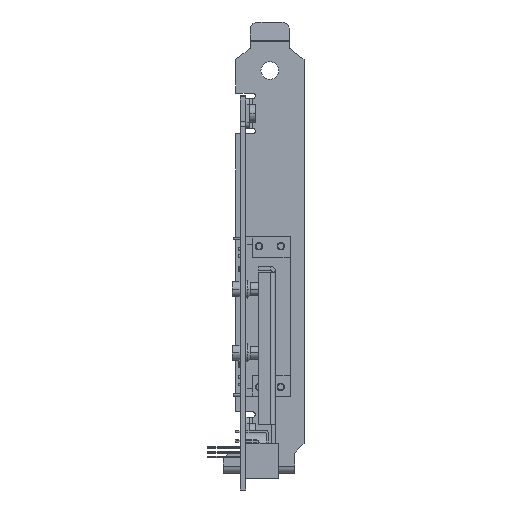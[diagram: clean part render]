
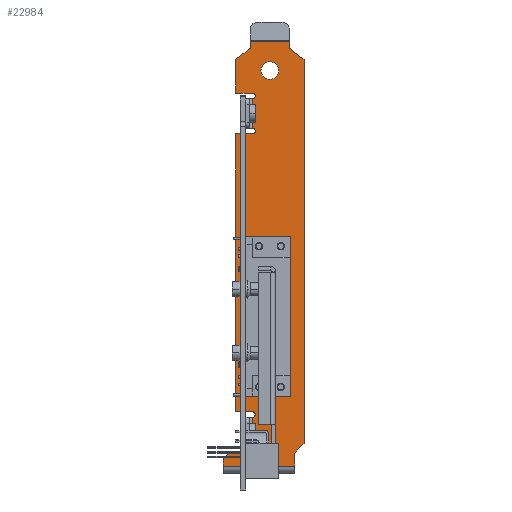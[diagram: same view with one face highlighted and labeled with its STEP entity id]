
A CAD part, front view. The second image highlights one B-rep face of the part: STEP entity #22984.
In plain terms, the highlighted planar face has unit normal (0, -1, 0).
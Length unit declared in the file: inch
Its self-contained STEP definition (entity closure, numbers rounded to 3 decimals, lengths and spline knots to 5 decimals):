
#3336=DIRECTION('',(1.,0.,0.));
#3337=VECTOR('',#3336,0.412);
#3338=CARTESIAN_POINT('',(0.108,0.33,0.764));
#3339=LINE('',#3338,#3337);
#3340=DIRECTION('',(0.,0.,-1.));
#3341=VECTOR('',#3340,0.074);
#3342=CARTESIAN_POINT('',(0.52,0.33,0.764));
#3343=LINE('',#3342,#3341);
#3344=DIRECTION('',(-0.788,0.,0.616));
#3345=VECTOR('',#3344,0.1967);
#3346=CARTESIAN_POINT('',(0.675,0.33,0.5689));
#3347=LINE('',#3346,#3345);
#3348=DIRECTION('',(0.707,0.,0.707));
#3349=VECTOR('',#3348,0.14142);
#3350=CARTESIAN_POINT('',(0.575,0.33,-3.583));
#3351=LINE('',#3350,#3349);
#3352=DIRECTION('',(0.,0.,1.));
#3353=VECTOR('',#3352,0.137);
#3354=CARTESIAN_POINT('',(0.575,0.33,-3.72));
#3355=LINE('',#3354,#3353);
#3356=DIRECTION('',(-1.,0.,0.));
#3357=VECTOR('',#3356,0.75);
#3358=CARTESIAN_POINT('',(0.575,0.33,-3.72));
#3359=LINE('',#3358,#3357);
#3360=DIRECTION('',(-0.707,0.,-0.707));
#3361=VECTOR('',#3360,0.09192);
#3362=CARTESIAN_POINT('',(-0.11,0.33,-3.577));
#3363=LINE('',#3362,#3361);
#3364=DIRECTION('',(1.,0.,0.));
#3365=VECTOR('',#3364,0.242);
#3366=CARTESIAN_POINT('',(-0.11,0.33,-3.577));
#3367=LINE('',#3366,#3365);
#3368=CARTESIAN_POINT('',(0.132,0.33,-3.5475));
#3369=DIRECTION('',(0.,1.,0.));
#3370=DIRECTION('',(0.,0.,1.));
#3371=AXIS2_PLACEMENT_3D('',#3368,#3369,#3370);
#3373=CARTESIAN_POINT('',(0.132,0.33,-3.1765));
#3374=DIRECTION('',(0.,1.,0.));
#3375=DIRECTION('',(0.,0.,1.));
#3376=AXIS2_PLACEMENT_3D('',#3373,#3374,#3375);
#3378=DIRECTION('',(-1.,0.,0.));
#3379=VECTOR('',#3378,0.179);
#3380=CARTESIAN_POINT('',(0.132,0.33,-3.147));
#3381=LINE('',#3380,#3379);
#3382=DIRECTION('',(0.,0.,-1.));
#3383=VECTOR('',#3382,2.932);
#3384=CARTESIAN_POINT('',(-0.047,0.33,-0.215));
#3385=LINE('',#3384,#3383);
#3386=DIRECTION('',(1.,0.,0.));
#3387=VECTOR('',#3386,0.179);
#3388=CARTESIAN_POINT('',(-0.047,0.33,-0.215));
#3389=LINE('',#3388,#3387);
#3390=CARTESIAN_POINT('',(0.132,0.33,-0.1855));
#3391=DIRECTION('',(0.,1.,0.));
#3392=DIRECTION('',(0.,0.,1.));
#3393=AXIS2_PLACEMENT_3D('',#3390,#3391,#3392);
#3395=CARTESIAN_POINT('',(0.132,0.33,0.1855));
#3396=DIRECTION('',(0.,1.,0.));
#3397=DIRECTION('',(0.,0.,1.));
#3398=AXIS2_PLACEMENT_3D('',#3395,#3396,#3397);
#3400=DIRECTION('',(-1.,0.,0.));
#3401=VECTOR('',#3400,0.179);
#3402=CARTESIAN_POINT('',(0.132,0.33,0.215));
#3403=LINE('',#3402,#3401);
#3404=DIRECTION('',(0.,0.,-1.));
#3405=VECTOR('',#3404,0.3539);
#3406=CARTESIAN_POINT('',(-0.047,0.33,0.5689));
#3407=LINE('',#3406,#3405);
#3408=DIRECTION('',(-0.788,0.,-0.616));
#3409=VECTOR('',#3408,0.1967);
#3410=CARTESIAN_POINT('',(0.108,0.33,0.69));
#3411=LINE('',#3410,#3409);
#3412=DIRECTION('',(0.,0.,-1.));
#3413=VECTOR('',#3412,0.074);
#3414=CARTESIAN_POINT('',(0.108,0.33,0.764));
#3415=LINE('',#3414,#3413);
#3416=CARTESIAN_POINT('',(0.314,0.33,0.453));
#3417=DIRECTION('',(0.,1.,0.));
#3418=DIRECTION('',(0.,0.,1.));
#3419=AXIS2_PLACEMENT_3D('',#3416,#3417,#3418);
#3421=CARTESIAN_POINT('',(0.314,0.33,0.453));
#3422=DIRECTION('',(0.,1.,0.));
#3423=DIRECTION('',(0.,0.,-1.));
#3424=AXIS2_PLACEMENT_3D('',#3421,#3422,#3423);
#3426=DIRECTION('',(-1.,0.,0.));
#3427=VECTOR('',#3426,0.46614);
#3428=CARTESIAN_POINT('',(0.52814,0.33,-1.302));
#3429=LINE('',#3428,#3427);
#3430=DIRECTION('',(0.,0.,-1.));
#3431=VECTOR('',#3430,1.6811);
#3432=CARTESIAN_POINT('',(0.062,0.33,-1.302));
#3433=LINE('',#3432,#3431);
#3434=DIRECTION('',(1.,0.,0.));
#3435=VECTOR('',#3434,0.46614);
#3436=CARTESIAN_POINT('',(0.062,0.33,-2.9831));
#3437=LINE('',#3436,#3435);
#3438=DIRECTION('',(0.,0.,1.));
#3439=VECTOR('',#3438,1.6811);
#3440=CARTESIAN_POINT('',(0.52814,0.33,-2.9831));
#3441=LINE('',#3440,#3439);
#3720=DIRECTION('',(0.,0.,1.));
#3721=VECTOR('',#3720,4.0519);
#3722=CARTESIAN_POINT('',(0.675,0.33,-3.483));
#3723=LINE('',#3722,#3721);
#3984=DIRECTION('',(0.,0.,1.));
#3985=VECTOR('',#3984,0.078);
#3986=CARTESIAN_POINT('',(-0.175,0.33,-3.72));
#3987=LINE('',#3986,#3985);
#4108=DIRECTION('',(0.,0.,1.));
#4109=VECTOR('',#4108,0.312);
#4110=CARTESIAN_POINT('',(0.132,0.33,-0.156));
#4111=LINE('',#4110,#4109);
#4288=DIRECTION('',(0.,0.,1.));
#4289=VECTOR('',#4288,0.312);
#4290=CARTESIAN_POINT('',(0.132,0.33,-3.518));
#4291=LINE('',#4290,#4289);
#18917=CARTESIAN_POINT('',(-0.175,0.33,-3.72));
#18919=VERTEX_POINT('',#18917);
#18920=CARTESIAN_POINT('',(0.575,0.33,-3.72));
#18922=VERTEX_POINT('',#18920);
#18924=CARTESIAN_POINT('',(0.575,0.33,-3.583));
#18925=VERTEX_POINT('',#18924);
#18926=CARTESIAN_POINT('',(0.675,0.33,-3.483));
#18927=VERTEX_POINT('',#18926);
#18928=CARTESIAN_POINT('',(0.108,0.33,0.69));
#18929=CARTESIAN_POINT('',(-0.047,0.33,0.5689));
#18930=VERTEX_POINT('',#18928);
#18931=VERTEX_POINT('',#18929);
#18932=CARTESIAN_POINT('',(0.675,0.33,0.5689));
#18933=CARTESIAN_POINT('',(0.52,0.33,0.69));
#18934=VERTEX_POINT('',#18932);
#18935=VERTEX_POINT('',#18933);
#18936=CARTESIAN_POINT('',(-0.175,0.33,-3.642));
#18937=VERTEX_POINT('',#18936);
#19044=CARTESIAN_POINT('',(0.314,0.33,0.5465));
#19045=CARTESIAN_POINT('',(0.314,0.33,0.3595));
#19046=VERTEX_POINT('',#19044);
#19047=VERTEX_POINT('',#19045);
#19048=CARTESIAN_POINT('',(0.108,0.33,0.764));
#19049=VERTEX_POINT('',#19048);
#19050=CARTESIAN_POINT('',(0.52,0.33,0.764));
#19051=VERTEX_POINT('',#19050);
#19112=CARTESIAN_POINT('',(-0.11,0.33,-3.577));
#19113=CARTESIAN_POINT('',(0.132,0.33,-3.577));
#19114=VERTEX_POINT('',#19112);
#19115=VERTEX_POINT('',#19113);
#19116=CARTESIAN_POINT('',(0.132,0.33,-3.518));
#19117=VERTEX_POINT('',#19116);
#19118=CARTESIAN_POINT('',(0.132,0.33,-3.147));
#19119=CARTESIAN_POINT('',(0.132,0.33,-3.206));
#19120=VERTEX_POINT('',#19118);
#19121=VERTEX_POINT('',#19119);
#19122=CARTESIAN_POINT('',(-0.047,0.33,-3.147));
#19123=VERTEX_POINT('',#19122);
#19172=CARTESIAN_POINT('',(-0.047,0.33,-0.215));
#19173=CARTESIAN_POINT('',(0.132,0.33,-0.215));
#19174=VERTEX_POINT('',#19172);
#19175=VERTEX_POINT('',#19173);
#19176=CARTESIAN_POINT('',(0.132,0.33,-0.156));
#19177=VERTEX_POINT('',#19176);
#19178=CARTESIAN_POINT('',(0.132,0.33,0.215));
#19179=CARTESIAN_POINT('',(0.132,0.33,0.156));
#19180=VERTEX_POINT('',#19178);
#19181=VERTEX_POINT('',#19179);
#19182=CARTESIAN_POINT('',(-0.047,0.33,0.215));
#19183=VERTEX_POINT('',#19182);
#20168=CARTESIAN_POINT('',(0.52814,0.33,-1.302));
#20169=CARTESIAN_POINT('',(0.062,0.33,-1.302));
#20170=VERTEX_POINT('',#20168);
#20171=VERTEX_POINT('',#20169);
#20172=CARTESIAN_POINT('',(0.062,0.33,-2.9831));
#20173=VERTEX_POINT('',#20172);
#20174=CARTESIAN_POINT('',(0.52814,0.33,-2.9831));
#20175=VERTEX_POINT('',#20174);
#22918=CARTESIAN_POINT('',(0.675,0.33,-3.72));
#22919=DIRECTION('',(0.,1.,0.));
#22920=DIRECTION('',(0.,0.,1.));
#22921=AXIS2_PLACEMENT_3D('',#22918,#22919,#22920);
#22922=PLANE('',#22921);
#22924=ORIENTED_EDGE('',*,*,#22923,.T.);
#22926=ORIENTED_EDGE('',*,*,#22925,.T.);
#22928=ORIENTED_EDGE('',*,*,#22927,.F.);
#22930=ORIENTED_EDGE('',*,*,#22929,.F.);
#22932=ORIENTED_EDGE('',*,*,#22931,.F.);
#22934=ORIENTED_EDGE('',*,*,#22933,.F.);
#22936=ORIENTED_EDGE('',*,*,#22935,.T.);
#22938=ORIENTED_EDGE('',*,*,#22937,.T.);
#22940=ORIENTED_EDGE('',*,*,#22939,.F.);
#22942=ORIENTED_EDGE('',*,*,#22941,.T.);
#22944=ORIENTED_EDGE('',*,*,#22943,.F.);
#22946=ORIENTED_EDGE('',*,*,#22945,.T.);
#22948=ORIENTED_EDGE('',*,*,#22947,.F.);
#22950=ORIENTED_EDGE('',*,*,#22949,.T.);
#22952=ORIENTED_EDGE('',*,*,#22951,.F.);
#22954=ORIENTED_EDGE('',*,*,#22953,.T.);
#22956=ORIENTED_EDGE('',*,*,#22955,.F.);
#22958=ORIENTED_EDGE('',*,*,#22957,.T.);
#22960=ORIENTED_EDGE('',*,*,#22959,.F.);
#22962=ORIENTED_EDGE('',*,*,#22961,.T.);
#22964=ORIENTED_EDGE('',*,*,#22963,.F.);
#22966=ORIENTED_EDGE('',*,*,#22965,.F.);
#22968=ORIENTED_EDGE('',*,*,#22967,.F.);
#22969=EDGE_LOOP('',(#22924,#22926,#22928,#22930,#22932,#22934,#22936,#22938,
#22940,#22942,#22944,#22946,#22948,#22950,#22952,#22954,#22956,#22958,#22960,
#22962,#22964,#22966,#22968));
#22970=FACE_OUTER_BOUND('',#22969,.F.);
#22972=ORIENTED_EDGE('',*,*,#22971,.F.);
#22974=ORIENTED_EDGE('',*,*,#22973,.F.);
#22975=EDGE_LOOP('',(#22972,#22974));
#22976=FACE_BOUND('',#22975,.F.);
#22977=ORIENTED_EDGE('',*,*,#22900,.T.);
#22978=ORIENTED_EDGE('',*,*,#22389,.T.);
#22979=ORIENTED_EDGE('',*,*,#22417,.T.);
#22981=ORIENTED_EDGE('',*,*,#22980,.T.);
#22982=EDGE_LOOP('',(#22977,#22978,#22979,#22981));
#22983=FACE_BOUND('',#22982,.F.);
#22984=ADVANCED_FACE('',(#22970,#22976,#22983),#22922,.F.);
#3372=CIRCLE('',#3371,0.0295);
#3377=CIRCLE('',#3376,0.0295);
#3394=CIRCLE('',#3393,0.0295);
#3399=CIRCLE('',#3398,0.0295);
#3420=CIRCLE('',#3419,0.0935);
#3425=CIRCLE('',#3424,0.0935);
#22389=EDGE_CURVE('',#20171,#20173,#3433,.T.);
#22417=EDGE_CURVE('',#20173,#20175,#3437,.T.);
#22900=EDGE_CURVE('',#20170,#20171,#3429,.T.);
#22923=EDGE_CURVE('',#19049,#19051,#3339,.T.);
#22925=EDGE_CURVE('',#19051,#18935,#3343,.T.);
#22927=EDGE_CURVE('',#18934,#18935,#3347,.T.);
#22929=EDGE_CURVE('',#18927,#18934,#3723,.T.);
#22931=EDGE_CURVE('',#18925,#18927,#3351,.T.);
#22933=EDGE_CURVE('',#18922,#18925,#3355,.T.);
#22935=EDGE_CURVE('',#18922,#18919,#3359,.T.);
#22937=EDGE_CURVE('',#18919,#18937,#3987,.T.);
#22939=EDGE_CURVE('',#19114,#18937,#3363,.T.);
#22941=EDGE_CURVE('',#19114,#19115,#3367,.T.);
#22943=EDGE_CURVE('',#19117,#19115,#3372,.T.);
#22945=EDGE_CURVE('',#19117,#19121,#4291,.T.);
#22947=EDGE_CURVE('',#19120,#19121,#3377,.T.);
#22949=EDGE_CURVE('',#19120,#19123,#3381,.T.);
#22951=EDGE_CURVE('',#19174,#19123,#3385,.T.);
#22953=EDGE_CURVE('',#19174,#19175,#3389,.T.);
#22955=EDGE_CURVE('',#19177,#19175,#3394,.T.);
#22957=EDGE_CURVE('',#19177,#19181,#4111,.T.);
#22959=EDGE_CURVE('',#19180,#19181,#3399,.T.);
#22961=EDGE_CURVE('',#19180,#19183,#3403,.T.);
#22963=EDGE_CURVE('',#18931,#19183,#3407,.T.);
#22965=EDGE_CURVE('',#18930,#18931,#3411,.T.);
#22967=EDGE_CURVE('',#19049,#18930,#3415,.T.);
#22971=EDGE_CURVE('',#19046,#19047,#3420,.T.);
#22973=EDGE_CURVE('',#19047,#19046,#3425,.T.);
#22980=EDGE_CURVE('',#20175,#20170,#3441,.T.);
